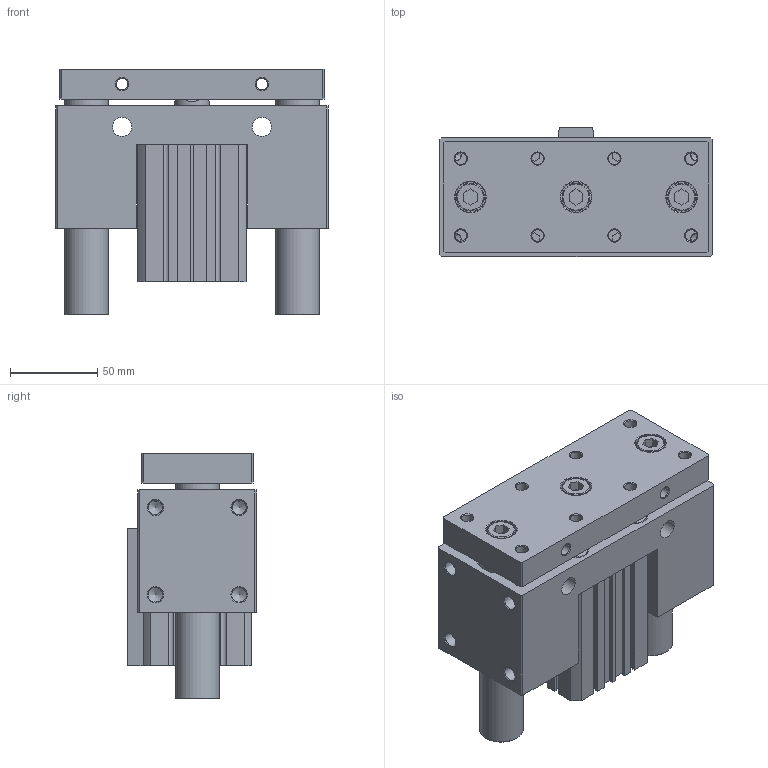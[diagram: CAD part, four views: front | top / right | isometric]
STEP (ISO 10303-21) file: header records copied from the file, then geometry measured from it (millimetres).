
FILE_DESCRIPTION((''),'2;1');
FILE_NAME('I:\3D電子目錄\氣缸\JCB\JCB\JCB50\JCB50x50.stp','2007-08-30T15:55:13',('Administrator'),(''),'Autodesk Inventor 11','Autodesk Inventor 11','');
FILE_SCHEMA(('AUTOMOTIVE_DESIGN { 1 0 10303 214 1 1 1 1 }'));
Length unit declared in the file: millimetre
Products named in the file (1): JCB50
Bounding box: 156 x 74 x 140.5 mm (x, y, z)
Volume: 963055 mm3; surface area: 175364.8 mm2
Topology: 3 solids, 3 shells, 328 faces, 786 edges, 510 vertices
Faces by surface type: plane 190, cylinder 58, cone 45, bspline 31, torus 4
Full cylindrical faces by diameter (mm): 2.7 x2, 6.8 x4, 8.376 x4, 11 x8, 13 x4, 14 x4, 16 x3, 17.5 x3, 20 x1, 21 x1, 25 x2, 28 x2, 37 x1, 38 x1, 52 x4, 55 x2
Entity records: 9390 total; most frequent: CARTESIAN_POINT 2294, DIRECTION 1434, ORIENTED_EDGE 1264, EDGE_CURVE 632, EDGE_LOOP 536, AXIS2_PLACEMENT_3D 512, VERTEX_POINT 480, VECTOR 410
